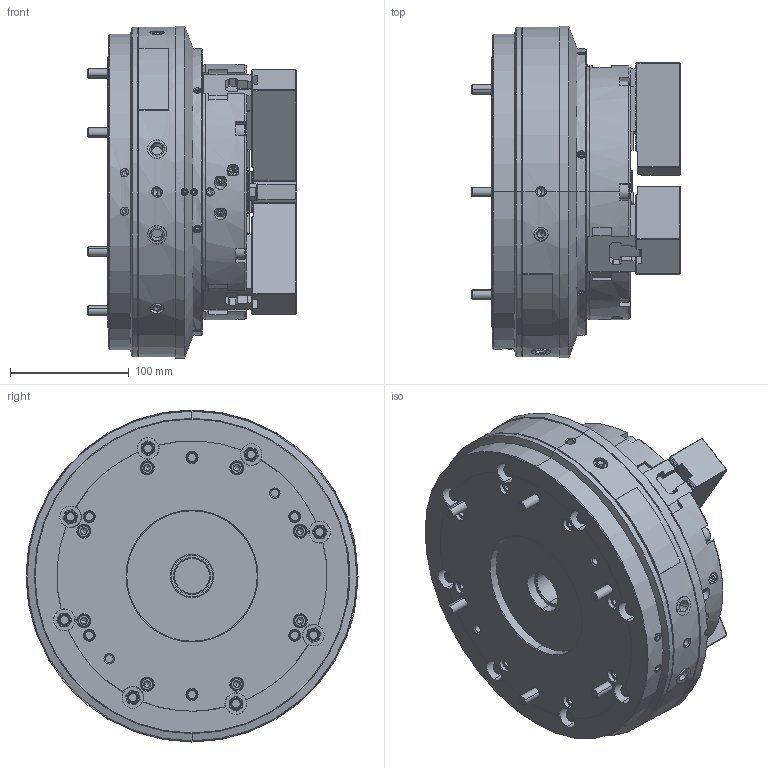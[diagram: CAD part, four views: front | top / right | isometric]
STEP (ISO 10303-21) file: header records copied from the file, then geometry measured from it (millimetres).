
FILE_DESCRIPTION (( 'STEP AP214' ), '1' );
FILE_NAME ('DEV-NRC08-HCL.STEP', '2024-10-03T05:02:31', ( '' ), ( '' ), 'SwSTEP 2.0', 'SolidWorks 2022', '' );
FILE_SCHEMA (( 'AUTOMOTIVE_DESIGN' ));
Length unit declared in the file: millimetre
Products named in the file (9): Copy of 0263002400^DEV-NRC08-クミタテ_円筒用; Part1^DEV-NRC08-クミタテ; Copy of 0030108125^DEV-NRC08-クミタテ; Copy of 0693000002^DEV-NRC08-クミタテ; Copy of 0030112035^DEV-NRC08-クミタテ; Copy of 61P304291^DEV-NRC08-クミタテ; DEV-NRC08-HCL; Copy of 61P413477^DEV-NRC08-クミタテ; Copy of 61P400744^DEV-NRC08-クミタテ
Assembly tree (23 placements, depth 2):
  DEV-NRC08-HCL
    Copy of 61P304291^DEV-NRC08-クミタテ  x3
    Copy of 61P400744^DEV-NRC08-クミタテ  x3
    Copy of 61P413477^DEV-NRC08-クミタテ
    Copy of 0030108125^DEV-NRC08-クミタテ  x6
    Copy of 0030112035^DEV-NRC08-クミタテ  x6
    Copy of 0263002400^DEV-NRC08-クミタテ_円筒用
    Copy of 0693000002^DEV-NRC08-クミタテ  x2
    Part1^DEV-NRC08-クミタテ
Bounding box: 176 x 280 x 280 mm (x, y, z)
Volume: 6063906 mm3; surface area: 434197.8 mm2
Topology: 23 solids, 69 shells, 5314 faces, 14516 edges, 9433 vertices
Faces by surface type: plane 3197, cylinder 1189, cone 754, bspline 140, torus 26, sphere 8
Entity records: 133236 total; most frequent: CARTESIAN_POINT 37091, ORIENTED_EDGE 21004, DIRECTION 18091, EDGE_CURVE 10502, VECTOR 7179, LINE 7179, VERTEX_POINT 6843, AXIS2_PLACEMENT_3D 5456
